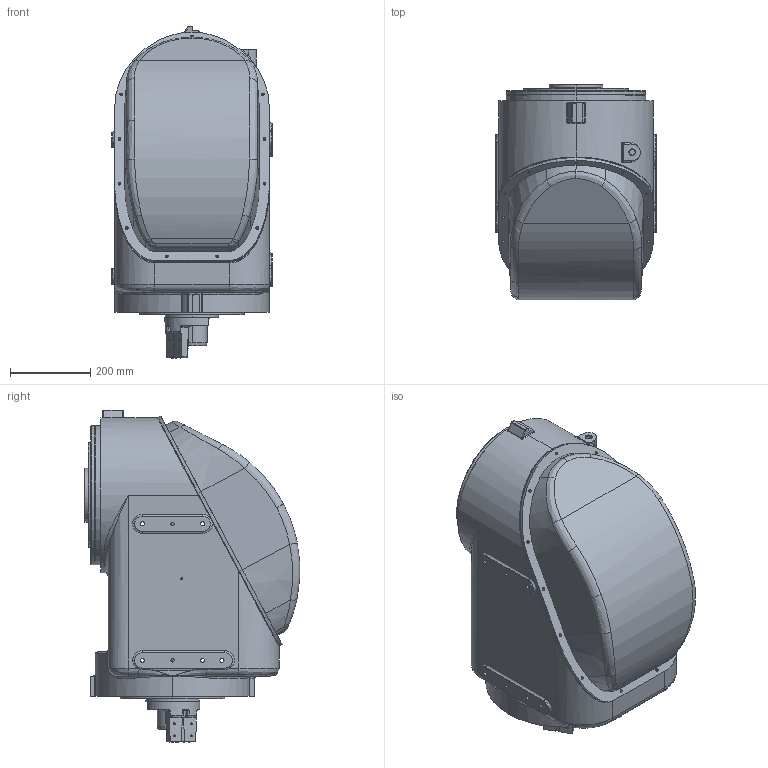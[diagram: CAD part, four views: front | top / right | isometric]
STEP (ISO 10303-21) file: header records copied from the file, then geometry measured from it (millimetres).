
FILE_DESCRIPTION (( 'STEP AP214' ), '1' );
FILE_NAME ('P-50iB TURRET.STEP', '2021-02-18T02:16:25', ( '' ), ( '' ), 'SwSTEP 2.0', 'SolidWorks 2019', '' );
FILE_SCHEMA (( 'AUTOMOTIVE_DESIGN' ));
Length unit declared in the file: inch
Products named in the file (1): P-50iB TURRET
Bounding box: 400 x 535.93 x 826 mm (x, y, z)
Surface area: 2231844.5 mm2 (no closed solid volume)
Topology: 0 solids, 19 shells, 648 faces, 1937 edges, 1295 vertices
Faces by surface type: cylinder 339, bspline 149, plane 102, cone 58
Entity records: 39998 total; most frequent: CARTESIAN_POINT 21320, ORIENTED_EDGE 3324, DIRECTION 3298, EDGE_CURVE 1923, AXIS2_PLACEMENT_3D 1349, VERTEX_POINT 1295, CIRCLE 849, EDGE_LOOP 818
